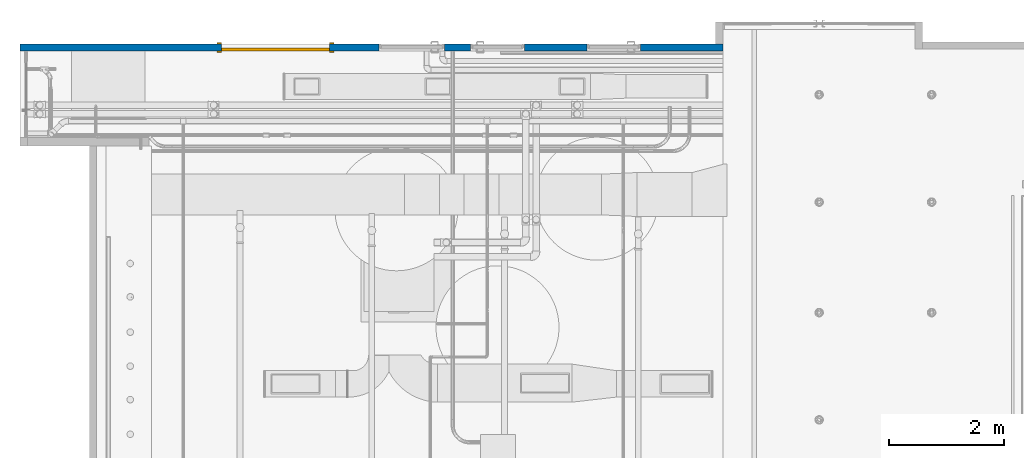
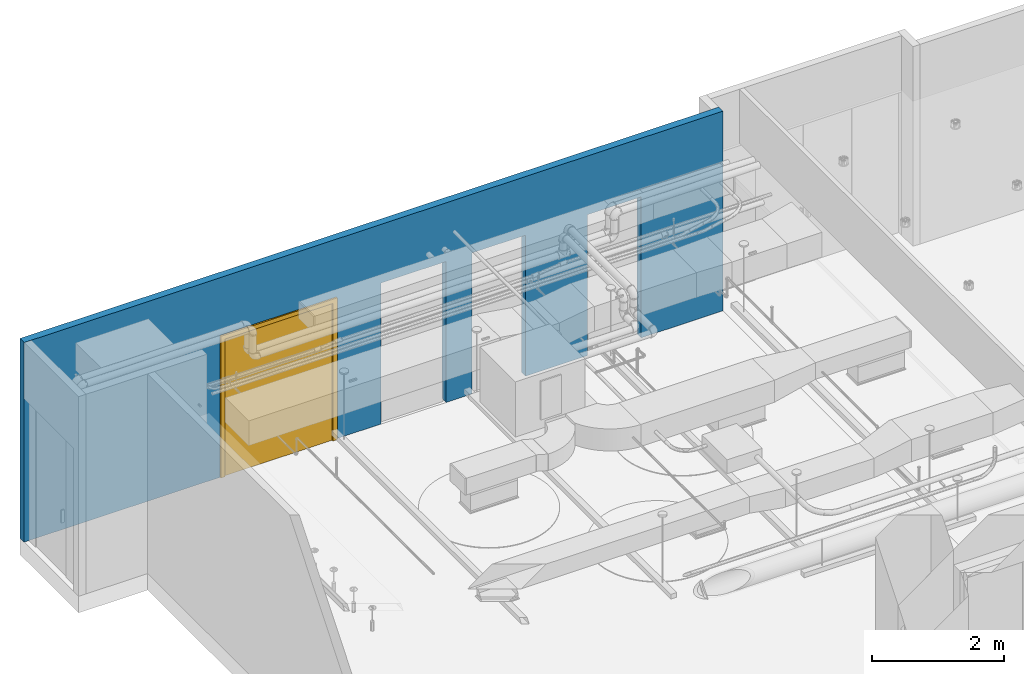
# One storey, part 17 of 108: 1 door, 1 wall, 4 openings.
"""IFC4 building model written with IfcOpenShell, lengths in feet."""

from ifc_helpers import new_model, entity, si_unit, converted_unit, derived_unit, direction, frame, frame_2d, origin, place, context, subcontext, project, spatial, polyline, rectangle, outline, extrude, source, transform, mapped, material, layer, layer_set, layer_usage, type_object, type_shapes, element, fill, save


model = new_model("IFC4")

# Units and contexts
model_context = context("Model", 3, precision=0.0001, world=origin(), true_north=direction((6.12303176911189e-17, 1.0)))
body_context = subcontext(model_context, "Body", "Model", "MODEL_VIEW")
ifc_project = project(units=[converted_unit("LENGTHUNIT", "FOOT", entity("IfcRatioMeasure", 0.3048), si_unit("LENGTHUNIT", "METRE"), dimensions=[1, 0, 0, 0, 0, 0, 0]), converted_unit("AREAUNIT", "SQUARE FOOT", entity("IfcRatioMeasure", 0.09290304), si_unit("AREAUNIT", "SQUARE_METRE"), dimensions=[2, 0, 0, 0, 0, 0, 0]), converted_unit("VOLUMEUNIT", "CUBIC FOOT", entity("IfcRatioMeasure", 0.028316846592), si_unit("VOLUMEUNIT", "CUBIC_METRE"), dimensions=[3, 0, 0, 0, 0, 0, 0]), converted_unit("PLANEANGLEUNIT", "DEGREE", entity("IfcRatioMeasure", 0.0174532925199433), si_unit("PLANEANGLEUNIT", "RADIAN"), dimensions=[0, 0, 0, 0, 0, 0, 0]), si_unit("MASSUNIT", "GRAM", prefix="KILO"), derived_unit("MASSDENSITYUNIT", [(si_unit("MASSUNIT", "GRAM", prefix="KILO"), 1), (si_unit("LENGTHUNIT", "METRE"), -3)]), si_unit("TIMEUNIT", "SECOND"), si_unit("FREQUENCYUNIT", "HERTZ"), si_unit("THERMODYNAMICTEMPERATUREUNIT", "DEGREE_CELSIUS"), derived_unit("THERMALTRANSMITTANCEUNIT", [(si_unit("MASSUNIT", "GRAM", prefix="KILO"), 1), (si_unit("THERMODYNAMICTEMPERATUREUNIT", "KELVIN"), -1), (si_unit("TIMEUNIT", "SECOND"), -3)]), derived_unit("VOLUMETRICFLOWRATEUNIT", [(si_unit("LENGTHUNIT", "METRE"), 3), (si_unit("TIMEUNIT", "SECOND"), -1)]), si_unit("ELECTRICCURRENTUNIT", "AMPERE"), si_unit("ELECTRICVOLTAGEUNIT", "VOLT"), si_unit("POWERUNIT", "WATT"), si_unit("FORCEUNIT", "NEWTON"), si_unit("ILLUMINANCEUNIT", "LUX"), si_unit("LUMINOUSFLUXUNIT", "LUMEN"), si_unit("LUMINOUSINTENSITYUNIT", "CANDELA"), derived_unit("USERDEFINED", [(si_unit("MASSUNIT", "GRAM", prefix="KILO"), -1), (si_unit("LENGTHUNIT", "METRE"), -2), (si_unit("TIMEUNIT", "SECOND"), 3), (si_unit("LUMINOUSFLUXUNIT", "LUMEN"), 1)]), derived_unit("LINEARVELOCITYUNIT", [(si_unit("LENGTHUNIT", "METRE"), 1), (si_unit("TIMEUNIT", "SECOND"), -1)]), si_unit("PRESSUREUNIT", "PASCAL"), derived_unit("USERDEFINED", [(si_unit("LENGTHUNIT", "METRE"), -2), (si_unit("MASSUNIT", "GRAM", prefix="KILO"), 1), (si_unit("TIMEUNIT", "SECOND"), -2)])], contexts=[model_context])

# Site, building, storey
site_placement = place(None, origin())
site = spatial("IfcSite", under=ifc_project, at=site_placement, Name="Default", CompositionType="ELEMENT")
building_placement = place(site_placement, origin())
building = spatial("IfcBuilding", under=site, at=building_placement, CompositionType="ELEMENT")
storey_placement = place(building_placement, frame((0.0, 0.0, 168.0)))
storey = spatial("IfcBuildingStorey", under=building, at=storey_placement, Name="Level 15", CompositionType="ELEMENT", Elevation=168.0)

# Wall, openings, door
ifc_material_1 = material(Name="Default Wall", Category="Miscellaneous")
ifc_layer = layer(ifc_material_1, 0.416666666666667, Name="Default Wall", Category="Miscellaneous")
ifc_layer_set = layer_set([ifc_layer], Name="Basic Wall:Generic - 5\"")
ifc_layer_usage = layer_usage(ifc_layer_set, "AXIS2", "NEGATIVE", 0.208333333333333)
wall_type = type_object("IfcWallType", Name="Basic Wall:Generic - 5\"", PredefinedType="NOTDEFINED", material=ifc_layer_set)
wall_placement = place(storey_placement, frame((-20.0881733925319, 15.4099411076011, 0.0), z_axis=(0.0, 0.0, 1.0), x_axis=(-1.0, 0.0, 0.0)))
wall = element("IfcWall", 1, at=wall_placement, inside=storey, type_object=wall_type, material=ifc_layer_usage, Name="Basic Wall:Generic - 5\"", ObjectType="Basic Wall:Generic - 5\"", PredefinedType="NOTDEFINED", context=body_context, shape_type="SweptSolid", body=[
    extrude(rectangle(XDim=40.0, YDim=0.416666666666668, at=frame_2d((20.0, -2.35922392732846e-16), x_axis=(-1.0, 0.0))), origin(), (0.0, 0.0, 1.0), 12.0833333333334),
])
opening_1_placement = place(wall_placement, frame((22.375, -0.208333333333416, 0.0)))
opening_1 = element("IfcOpeningElement", 2, at=opening_1_placement, cuts=wall, Name="Door-Double-Flush_Panel:74\" x 100\":1", ObjectType="Opening", PredefinedType="OPENING", context=body_context, shape_type="SweptSolid", body=[
    extrude(rectangle(XDim=8.33333333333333, YDim=6.16666666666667, at=frame_2d((4.16666666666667, 3.08333333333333), x_axis=(1.0, 0.0))), frame((0.0, 0.0, 0.0), z_axis=(0.0, 1.0, 0.0), x_axis=(0.0, 0.0, 1.0)), (0.0, 0.0, 1.0), 0.416666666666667),
])
opening_2_placement = place(wall_placement, frame((15.8421916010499, -0.208333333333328, 0.0)))
element("IfcOpeningElement", 3, at=opening_2_placement, cuts=wall, Name="Door Single Panel:44\" x 102\":1", ObjectType="Opening", PredefinedType="OPENING", context=body_context, shape_type="SweptSolid", body=[
    extrude(rectangle(XDim=8.53280839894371, YDim=3.73228346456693, at=frame_2d((4.26640419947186, 1.86614173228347), x_axis=(1.0, 0.0))), frame((0.0, 0.0, 0.0), z_axis=(0.0, 1.0, 0.0), x_axis=(0.0, 0.0, 1.0)), (0.0, 0.0, 1.0), 0.416666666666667),
])
opening_3_placement = place(wall_placement, frame((7.74114173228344, 0.20833333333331, 0.0)))
element("IfcOpeningElement", 4, at=opening_3_placement, cuts=wall, Name="Door Single Panel:36\" x 102\":1", ObjectType="Opening", PredefinedType="OPENING", context=body_context, shape_type="SweptSolid", body=[
    extrude(rectangle(XDim=8.53280839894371, YDim=3.06561679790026, at=frame_2d((4.26640419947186, 1.53280839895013), x_axis=(1.0, 0.0))), frame((0.0, 0.0, 0.0), z_axis=(0.0, -1.0, 0.0), x_axis=(0.0, 0.0, 1.0)), (0.0, 0.0, 1.0), 0.416666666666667),
])
opening_4_placement = place(wall_placement, frame((14.3661417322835, 0.208333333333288, 0.0)))
element("IfcOpeningElement", 5, at=opening_4_placement, cuts=wall, Name="Door Single Panel:36\" x 102\":1", ObjectType="Opening", PredefinedType="OPENING", context=body_context, shape_type="SweptSolid", body=[
    extrude(rectangle(XDim=8.53280839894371, YDim=3.06561679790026, at=frame_2d((4.26640419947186, 1.53280839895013), x_axis=(1.0, 0.0))), frame((0.0, 0.0, 0.0), z_axis=(0.0, -1.0, 0.0), x_axis=(0.0, 0.0, 1.0)), (0.0, 0.0, 1.0), 0.416666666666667),
])
ifc_material_2 = material(Name="Paint_White", Category="Paint")
door_type = type_object("IfcDoorType", Name="74\" x 100\"", OperationType="NOTDEFINED", ParameterTakesPrecedence=False, PredefinedType="DOOR", material=ifc_material_2)
shared_shape = source(origin(), body_context, "Body", "SweptSolid", [
    extrude(outline(polyline([(-4.10416666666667, 3.08333333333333), (4.22916666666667, 3.08333333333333), (4.22916666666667, 3.33333333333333), (-4.35416666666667, 3.33333333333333), (-4.35416666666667, -3.33333333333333), (4.22916666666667, -3.33333333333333), (4.22916666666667, -3.08333333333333), (-4.10416666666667, -3.08333333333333), (-4.10416666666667, 3.08333333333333)])), frame((3.08333333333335, 0.0, 4.22916666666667), z_axis=(0.0, -1.0, 0.0), x_axis=(0.0, 0.0, -1.0)), (0.0, 0.0, 1.0), 0.0833333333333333),
    extrude(outline(polyline([(-4.10416666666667, 3.08333333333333), (4.22916666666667, 3.08333333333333), (4.22916666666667, 3.33333333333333), (-4.35416666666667, 3.33333333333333), (-4.35416666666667, -3.33333333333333), (4.22916666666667, -3.33333333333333), (4.22916666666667, -3.08333333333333), (-4.10416666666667, -3.08333333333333), (-4.10416666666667, 3.08333333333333)])), frame((3.08333333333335, 0.500000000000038, 4.22916666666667), z_axis=(0.0, -1.0, 0.0), x_axis=(0.0, 0.0, -1.0)), (0.0, 0.0, 1.0), 0.0833333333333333),
    extrude(rectangle(XDim=3.08333333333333, YDim=0.166666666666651, at=frame_2d((0.0, 1.38777878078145e-17), x_axis=(1.0, 0.0))), frame((1.54166666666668, 0.333333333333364, 0.0), z_axis=(0.0, 0.0, 1.0), x_axis=(-1.0, 0.0, 0.0)), (0.0, 0.0, 1.0), 8.33333333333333),
    extrude(rectangle(XDim=3.08333333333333, YDim=0.166666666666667, at=frame_2d((0.0, 2.77555756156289e-17), x_axis=(1.0, 0.0))), frame((4.62500000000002, 0.333333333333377, 0.0), z_axis=(0.0, 0.0, 1.0), x_axis=(-1.0, 0.0, 0.0)), (0.0, 0.0, 1.0), 8.33333333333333),
])
type_shapes(door_type, [shared_shape])
door_placement = place(opening_1_placement, origin())
door = element("IfcDoor", 6, at=door_placement, inside=storey, type_object=door_type, material=ifc_material_2, Name="Door-Double-Flush_Panel:74\" x 100\"", ObjectType="Door-Double-Flush_Panel:74\" x 100\"", OperationType="NOTDEFINED", OverallHeight=8.33333333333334, OverallWidth=6.16666666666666, PredefinedType="DOOR", context=body_context, shape_type="MappedRepresentation", body=[
    mapped(shared_shape, transform((0.0, 0.0, 0.0), scale=1.0)),
])
fill(opening_1, door)

save(model, "model.ifc")
